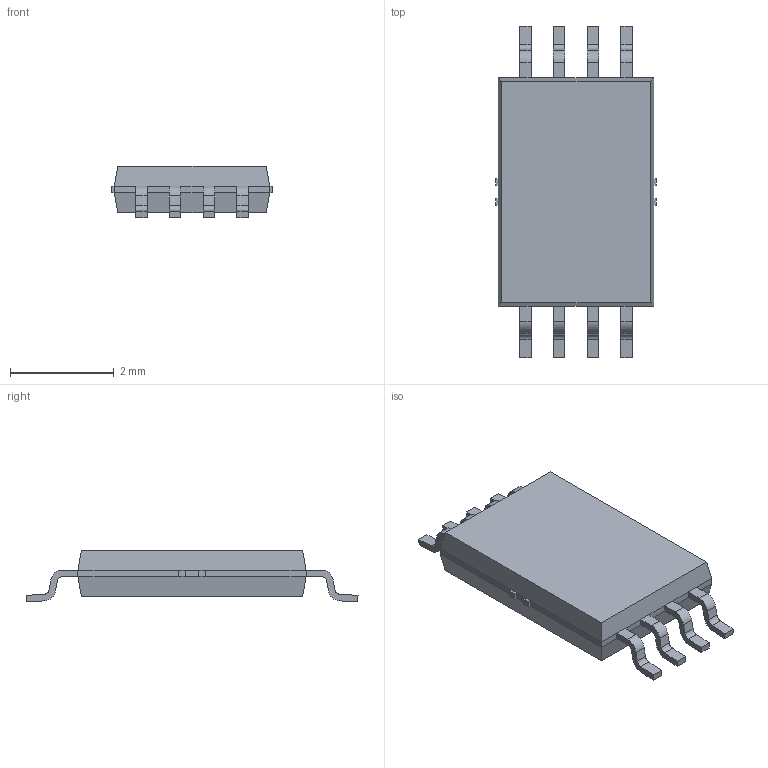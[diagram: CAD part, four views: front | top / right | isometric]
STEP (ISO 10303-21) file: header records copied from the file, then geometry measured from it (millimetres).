
FILE_DESCRIPTION (( 'STEP AP214' ), '1' );
FILE_NAME ('LE8.STEP', '2017-03-09T18:04:00', ( '' ), ( '' ), 'SwSTEP 2.0', 'SolidWorks 2015', '' );
FILE_SCHEMA (( 'AUTOMOTIVE_DESIGN' ));
Length unit declared in the file: millimetre
Products named in the file (2): LE8; LE8 mold
Assembly tree (1 placements, depth 2):
  LE8
    LE8 mold
Bounding box: 3.1 x 6.4 x 1 mm (x, y, z)
Volume: 11.8 mm3; surface area: 45 mm2
Topology: 1 solids, 1 shells, 150 faces, 388 edges, 240 vertices
Faces by surface type: plane 118, cylinder 32
Entity records: 4534 total; most frequent: CARTESIAN_POINT 782, ORIENTED_EDGE 776, DIRECTION 760, EDGE_CURVE 388, LINE 324, VECTOR 324, VERTEX_POINT 240, AXIS2_PLACEMENT_3D 218
